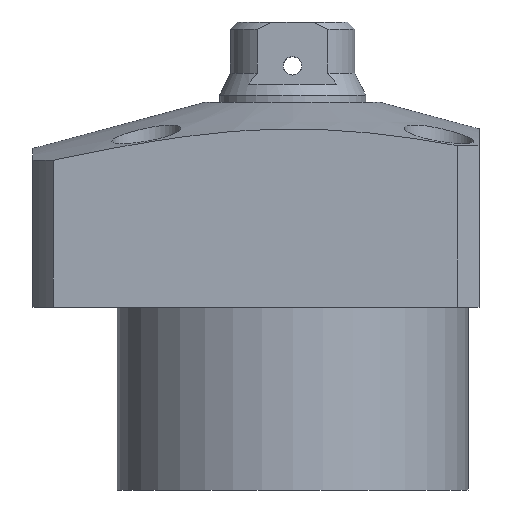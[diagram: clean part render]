
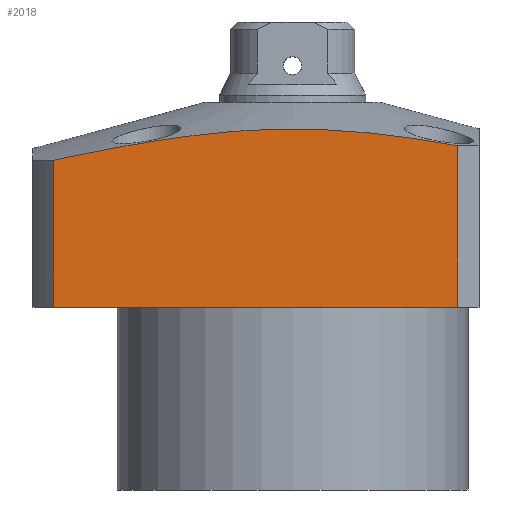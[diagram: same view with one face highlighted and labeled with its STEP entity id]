
A CAD part, front view. The second image highlights one B-rep face of the part: STEP entity #2018.
In plain terms, the highlighted planar face has unit normal (0, -1, 0).
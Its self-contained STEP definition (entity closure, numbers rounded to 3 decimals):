
#20 = CARTESIAN_POINT ( 'NONE',  ( 22.5, -25.5, 8.103 ) ) ;
#37 = CARTESIAN_POINT ( 'NONE',  ( 22.5, -25.5, 8.103 ) ) ;
#44 = AXIS2_PLACEMENT_3D ( 'NONE', #2368, #2166, #1912 ) ;
#209 = B_SPLINE_CURVE_WITH_KNOTS ( 'NONE', 3,
 ( #464, #1684, #394, #811, #1470, #875, #1065, #1283, #1017, #2672, #2252, #232, #1217, #801, #446, #1880, #2525, #37 ),
 .UNSPECIFIED., .F., .F.,
 ( 4, 2, 2, 2, 2, 2, 2, 2, 4 ),
 ( 0.029, 0.036, 0.043, 0.057, 0.064, 0.071, 0.074, 0.078, 0.085 ),
 .UNSPECIFIED. ) ;
#232 = CARTESIAN_POINT ( 'NONE',  ( 9.796, -25.5, 9.902 ) ) ;
#299 = PLANE ( 'NONE',  #44 ) ;
#310 = VECTOR ( 'NONE', #1886, 1000. ) ;
#389 = VECTOR ( 'NONE', #998, 1000. ) ;
#394 = CARTESIAN_POINT ( 'NONE',  ( -28.186, -25.5, 7.04 ) ) ;
#446 = CARTESIAN_POINT ( 'NONE',  ( 14.442, -25.5, 9.367 ) ) ;
#464 = CARTESIAN_POINT ( 'NONE',  ( -32.741, -25.5, 6.095 ) ) ;
#716 = EDGE_CURVE ( 'NONE', #2212, #2223, #2522, .T. ) ;
#767 = ORIENTED_EDGE ( 'NONE', *, *, #1345, .F. ) ;
#801 = CARTESIAN_POINT ( 'NONE',  ( 13.284, -25.5, 9.516 ) ) ;
#811 = CARTESIAN_POINT ( 'NONE',  ( -23.614, -25.5, 7.913 ) ) ;
#872 = CARTESIAN_POINT ( 'NONE',  ( -32.741, -25.5, 6.095 ) ) ;
#875 = CARTESIAN_POINT ( 'NONE',  ( -14.452, -25.5, 9.423 ) ) ;
#920 = VERTEX_POINT ( 'NONE', #2092 ) ;
#929 = EDGE_LOOP ( 'NONE', ( #2330, #1142, #767, #1023 ) ) ;
#989 = VERTEX_POINT ( 'NONE', #872 ) ;
#998 = DIRECTION ( 'NONE',  ( 0., 0., 1. ) ) ;
#1017 = CARTESIAN_POINT ( 'NONE',  ( -0.637, -25.5, 10.409 ) ) ;
#1023 = ORIENTED_EDGE ( 'NONE', *, *, #1312, .T. ) ;
#1065 = CARTESIAN_POINT ( 'NONE',  ( -9.861, -25.5, 9.99 ) ) ;
#1111 = LINE ( 'NONE', #2296, #1261 ) ;
#1142 = ORIENTED_EDGE ( 'NONE', *, *, #716, .T. ) ;
#1217 = CARTESIAN_POINT ( 'NONE',  ( 10.959, -25.5, 9.784 ) ) ;
#1261 = VECTOR ( 'NONE', #1864, 1000. ) ;
#1283 = CARTESIAN_POINT ( 'NONE',  ( -2.947, -25.5, 10.364 ) ) ;
#1312 = EDGE_CURVE ( 'NONE', #989, #920, #1844, .T. ) ;
#1345 = EDGE_CURVE ( 'NONE', #989, #2223, #209, .T. ) ;
#1470 = CARTESIAN_POINT ( 'NONE',  ( -21.325, -25.5, 8.322 ) ) ;
#1684 = CARTESIAN_POINT ( 'NONE',  ( -30.466, -25.5, 6.577 ) ) ;
#1703 = CARTESIAN_POINT ( 'NONE',  ( 22.5, -25.5, -14. ) ) ;
#1844 = LINE ( 'NONE', #2245, #310 ) ;
#1864 = DIRECTION ( 'NONE',  ( 1., 0., 0. ) ) ;
#1880 = CARTESIAN_POINT ( 'NONE',  ( 17.909, -25.5, 8.883 ) ) ;
#1886 = DIRECTION ( 'NONE',  ( 0., 0., -1. ) ) ;
#1912 = DIRECTION ( 'NONE',  ( -1., 0., 0. ) ) ;
#2018 = ADVANCED_FACE ( 'NONE', ( #2571 ), #299, .F. ) ;
#2092 = CARTESIAN_POINT ( 'NONE',  ( -32.741, -25.5, -14. ) ) ;
#2166 = DIRECTION ( 'NONE',  ( 0., 1., 0. ) ) ;
#2212 = VERTEX_POINT ( 'NONE', #1703 ) ;
#2223 = VERTEX_POINT ( 'NONE', #20 ) ;
#2242 = CARTESIAN_POINT ( 'NONE',  ( 22.5, -25.5, 14. ) ) ;
#2245 = CARTESIAN_POINT ( 'NONE',  ( -32.741, -25.5, 14. ) ) ;
#2252 = CARTESIAN_POINT ( 'NONE',  ( 6.31, -25.5, 10.201 ) ) ;
#2296 = CARTESIAN_POINT ( 'NONE',  ( -32.741, -25.5, -14. ) ) ;
#2330 = ORIENTED_EDGE ( 'NONE', *, *, #2418, .T. ) ;
#2368 = CARTESIAN_POINT ( 'NONE',  ( -32.741, -25.5, 14. ) ) ;
#2418 = EDGE_CURVE ( 'NONE', #920, #2212, #1111, .T. ) ;
#2522 = LINE ( 'NONE', #2242, #389 ) ;
#2525 = CARTESIAN_POINT ( 'NONE',  ( 20.208, -25.5, 8.509 ) ) ;
#2571 = FACE_OUTER_BOUND ( 'NONE', #929, .T. ) ;
#2672 = CARTESIAN_POINT ( 'NONE',  ( 3.991, -25.5, 10.327 ) ) ;
